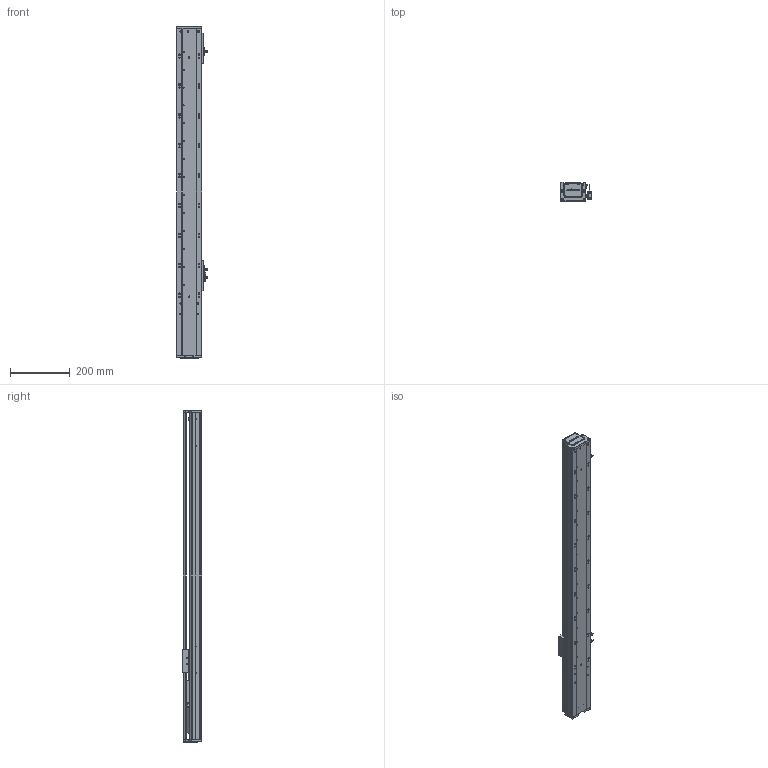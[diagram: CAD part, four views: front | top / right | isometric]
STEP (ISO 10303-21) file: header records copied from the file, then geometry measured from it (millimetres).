
FILE_DESCRIPTION (( 'STEP AP203' ), '1' );
FILE_NAME ('RY80-L1620-300-IK.SLDASM_750.step', '2021-02-22T05:29:20', ( '盈信电脑' ), ( '东莞市道滘镇水果街19号' ), 'SwSTEP 2.0', 'SolidWorks 2012', '' );
FILE_SCHEMA (( 'CONFIG_CONTROL_DESIGN' ));
Length unit declared in the file: millimetre
Products named in the file (14): RY80-L1620-300-IK.SLDASM_750; 滅袉蝶18-24; RY80囀离ヶ啣; 侂狟100W; 覜茼ん672; RY80俋离覜茼え; RY80囀离萇儂啣; RY80萇儂傷盓傅釱; 滅袉蝶18-10; 672嫖萇羲壽假蚾釱; RY80綴裔啣; RY80-300倰第菁釱-IK_750; RY80-300倰第奻裔啣-IK_750; RY80臏賑輸
Assembly tree (16 placements, depth 2):
  RY80-L1620-300-IK.SLDASM_750
    RY80-300倰第菁釱-IK_750
    RY80臏賑輸
    RY80-300倰第奻裔啣-IK_750
    RY80萇儂傷盓傅釱
    RY80綴裔啣
    滅袉蝶18-10
    672嫖萇羲壽假蚾釱  x2
    覜茼ん672  x3
    RY80俋离覜茼え
    侂狟100W
    RY80囀离萇儂啣
    RY80囀离ヶ啣
    滅袉蝶18-24
Bounding box: 103.7 x 65 x 1111 mm (x, y, z)
Volume: 1853827.6 mm3; surface area: 781681.3 mm2
Topology: 16 solids, 16 shells, 2165 faces, 6032 edges, 3935 vertices
Faces by surface type: plane 1290, cylinder 735, cone 96, bspline 44
Entity records: 69401 total; most frequent: CARTESIAN_POINT 18033, ORIENTED_EDGE 10784, DIRECTION 9647, EDGE_CURVE 5392, VERTEX_POINT 3551, LINE 3513, VECTOR 3513, AXIS2_PLACEMENT_3D 3067
